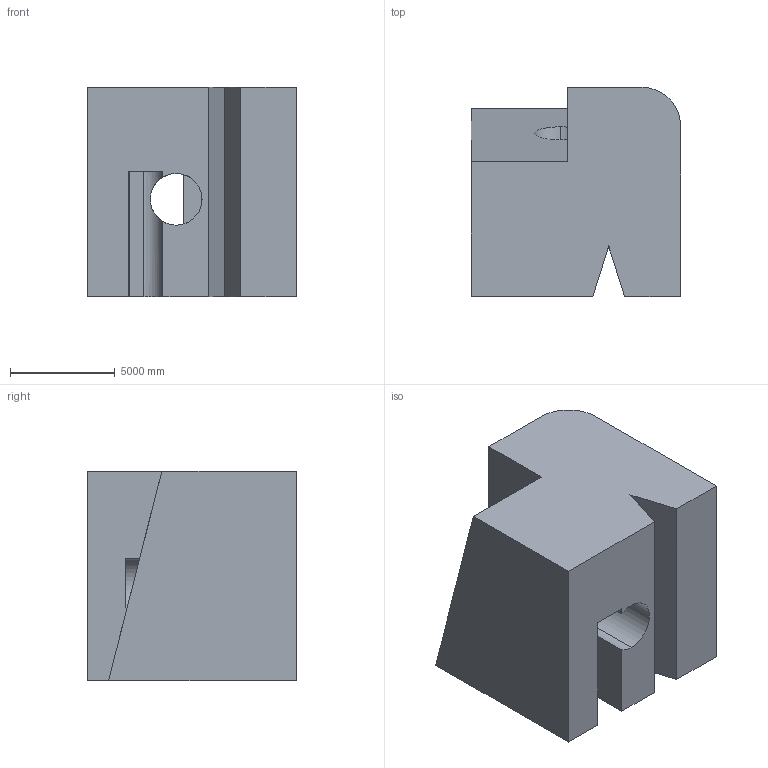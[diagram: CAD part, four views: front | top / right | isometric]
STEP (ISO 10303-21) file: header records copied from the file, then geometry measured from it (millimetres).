
FILE_DESCRIPTION (( 'STEP AP203' ), '1' );
FILE_NAME ('1603.STEP', '2022-08-18T16:05:32', ( 'user' ), ( '' ), 'SwSTEP 2.0', 'SolidWorks 2021', '' );
FILE_SCHEMA (( 'CONFIG_CONTROL_DESIGN' ));
Length unit declared in the file: centimetre
Products named in the file (1): 1603
Bounding box: 10000 x 10000 x 10000 mm (x, y, z)
Volume: 771801392344.5 mm3; surface area: 722389865.7 mm2
Topology: 1 solids, 1 shells, 31 faces, 93 edges, 62 vertices
Faces by surface type: plane 24, cylinder 7
Entity records: 1344 total; most frequent: CARTESIAN_POINT 424, ORIENTED_EDGE 186, DIRECTION 165, EDGE_CURVE 93, LINE 73, VECTOR 73, VERTEX_POINT 62, AXIS2_PLACEMENT_3D 46
